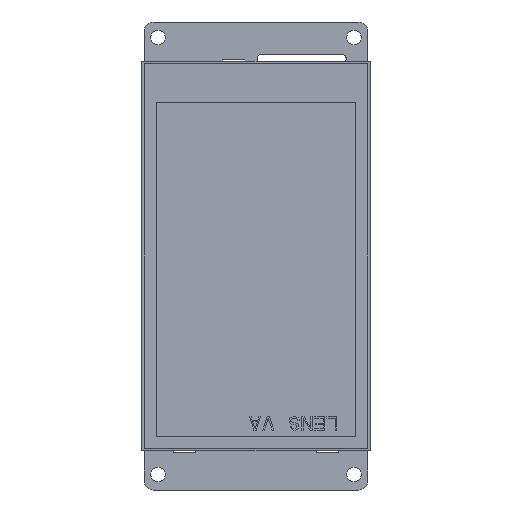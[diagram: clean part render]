
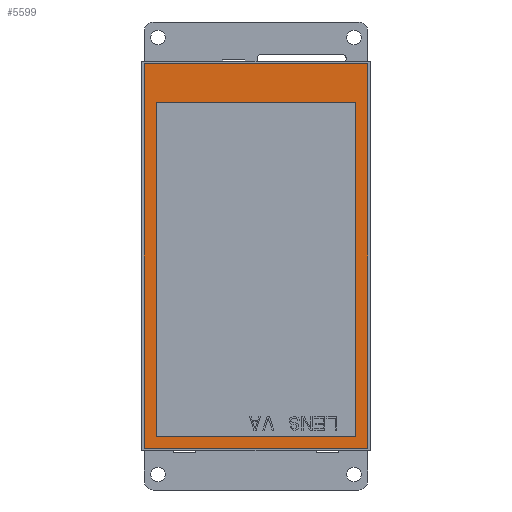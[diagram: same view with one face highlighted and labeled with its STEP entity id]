
A CAD part, front view. The second image highlights one B-rep face of the part: STEP entity #5599.
In plain terms, the highlighted planar face has unit normal (0, -1, 0) as drawn and (0, 1, 0) by its records, which use the part's own axes.
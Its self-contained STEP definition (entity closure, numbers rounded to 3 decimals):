
#3810=DIRECTION('',(0.,0.,1.));
#3811=VECTOR('',#3810,86.3);
#3812=CARTESIAN_POINT('',(-25.08,1.775,-43.15));
#3813=LINE('',#3812,#3811);
#3814=DIRECTION('',(-1.,0.,0.));
#3815=VECTOR('',#3814,50.16);
#3816=CARTESIAN_POINT('',(25.08,1.775,-43.15));
#3817=LINE('',#3816,#3815);
#3818=DIRECTION('',(0.,0.,-1.));
#3819=VECTOR('',#3818,86.3);
#3820=CARTESIAN_POINT('',(25.08,1.775,43.15));
#3821=LINE('',#3820,#3819);
#3822=DIRECTION('',(1.,0.,0.));
#3823=VECTOR('',#3822,50.16);
#3824=CARTESIAN_POINT('',(-25.08,1.775,43.15));
#3825=LINE('',#3824,#3823);
#3826=DIRECTION('',(0.,0.,1.));
#3827=VECTOR('',#3826,75.);
#3828=CARTESIAN_POINT('',(-22.38,1.775,-40.45));
#3829=LINE('',#3828,#3827);
#3830=DIRECTION('',(1.,0.,0.));
#3831=VECTOR('',#3830,44.76);
#3832=CARTESIAN_POINT('',(-22.38,1.775,34.55));
#3833=LINE('',#3832,#3831);
#3834=DIRECTION('',(0.,0.,-1.));
#3835=VECTOR('',#3834,75.);
#3836=CARTESIAN_POINT('',(22.38,1.775,34.55));
#3837=LINE('',#3836,#3835);
#3838=DIRECTION('',(-1.,0.,0.));
#3839=VECTOR('',#3838,44.76);
#3840=CARTESIAN_POINT('',(22.38,1.775,-40.45));
#3841=LINE('',#3840,#3839);
#5082=CARTESIAN_POINT('',(-25.08,1.775,-43.15));
#5083=CARTESIAN_POINT('',(-25.08,1.775,43.15));
#5084=VERTEX_POINT('',#5082);
#5085=VERTEX_POINT('',#5083);
#5086=CARTESIAN_POINT('',(25.08,1.775,43.15));
#5087=VERTEX_POINT('',#5086);
#5088=CARTESIAN_POINT('',(25.08,1.775,-43.15));
#5089=VERTEX_POINT('',#5088);
#5298=CARTESIAN_POINT('',(-22.38,1.775,-40.45));
#5299=CARTESIAN_POINT('',(-22.38,1.775,34.55));
#5300=VERTEX_POINT('',#5298);
#5301=VERTEX_POINT('',#5299);
#5302=CARTESIAN_POINT('',(22.38,1.775,34.55));
#5303=VERTEX_POINT('',#5302);
#5304=CARTESIAN_POINT('',(22.38,1.775,-40.45));
#5305=VERTEX_POINT('',#5304);
#5578=CARTESIAN_POINT('',(0.,1.775,0.));
#5579=DIRECTION('',(0.,1.,0.));
#5580=DIRECTION('',(1.,0.,0.));
#5581=AXIS2_PLACEMENT_3D('',#5578,#5579,#5580);
#5582=PLANE('',#5581);
#5583=ORIENTED_EDGE('',*,*,#5530,.F.);
#5584=ORIENTED_EDGE('',*,*,#5545,.F.);
#5585=ORIENTED_EDGE('',*,*,#5559,.F.);
#5586=ORIENTED_EDGE('',*,*,#5572,.F.);
#5587=EDGE_LOOP('',(#5583,#5584,#5585,#5586));
#5588=FACE_OUTER_BOUND('',#5587,.F.);
#5590=ORIENTED_EDGE('',*,*,#5589,.T.);
#5592=ORIENTED_EDGE('',*,*,#5591,.T.);
#5594=ORIENTED_EDGE('',*,*,#5593,.T.);
#5596=ORIENTED_EDGE('',*,*,#5595,.T.);
#5597=EDGE_LOOP('',(#5590,#5592,#5594,#5596));
#5598=FACE_BOUND('',#5597,.F.);
#5530=EDGE_CURVE('',#5084,#5085,#3813,.T.);
#5545=EDGE_CURVE('',#5089,#5084,#3817,.T.);
#5559=EDGE_CURVE('',#5087,#5089,#3821,.T.);
#5572=EDGE_CURVE('',#5085,#5087,#3825,.T.);
#5589=EDGE_CURVE('',#5300,#5301,#3829,.T.);
#5591=EDGE_CURVE('',#5301,#5303,#3833,.T.);
#5593=EDGE_CURVE('',#5303,#5305,#3837,.T.);
#5595=EDGE_CURVE('',#5305,#5300,#3841,.T.);
#5599=ADVANCED_FACE('',(#5588,#5598),#5582,.T.);
